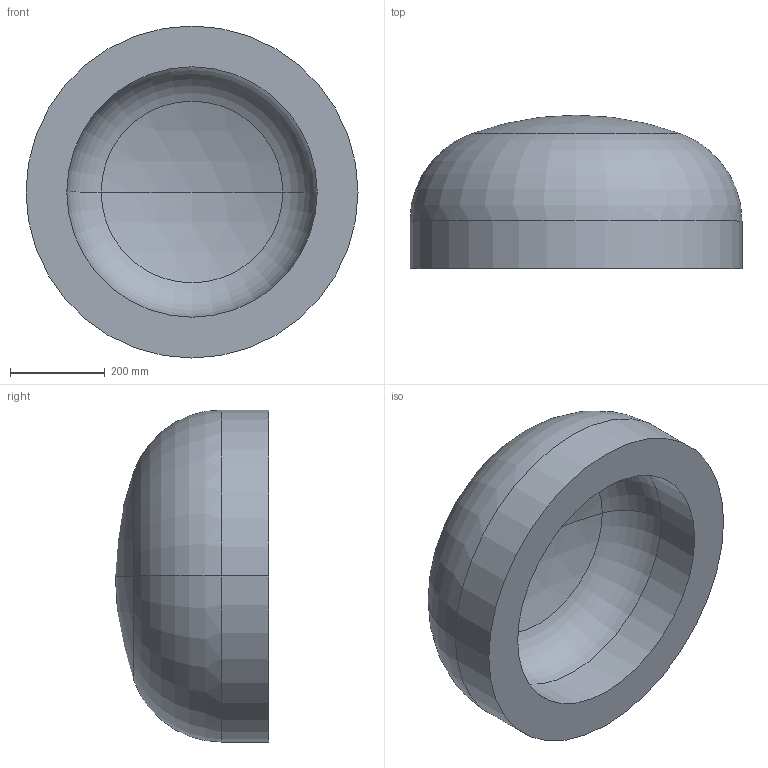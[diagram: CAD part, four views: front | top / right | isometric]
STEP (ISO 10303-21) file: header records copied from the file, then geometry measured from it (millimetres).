
FILE_DESCRIPTION (( 'STEP AP203' ), '1' );
FILE_NAME ('DIN 28013 Korbbogenform_-_Boden DIN 28013 - 700 x 100 - I - s=86.step', '2016-07-01T08:11:07', ( '' ), ( '' ), 'SwSTEP 2.0', 'SolidWorks 2013', '' );
FILE_SCHEMA (( 'CONFIG_CONTROL_DESIGN' ));
Length unit declared in the file: millimetre
Products named in the file (1): DIN 28013 Korbbogenform_-_Boden DIN 28013 - 700 x 100 - I - s=86
Bounding box: 700 x 323.17 x 700 mm (x, y, z)
Volume: 56222892 mm3; surface area: 1488887.8 mm2
Topology: 1 solids, 1 shells, 13 faces, 24 edges, 14 vertices
Faces by surface type: torus 4, cylinder 4, sphere 4, plane 1
Entity records: 407 total; most frequent: DIRECTION 72, CARTESIAN_POINT 52, ORIENTED_EDGE 48, AXIS2_PLACEMENT_3D 34, EDGE_CURVE 24, CIRCLE 20, VERTEX_POINT 14, EDGE_LOOP 14
